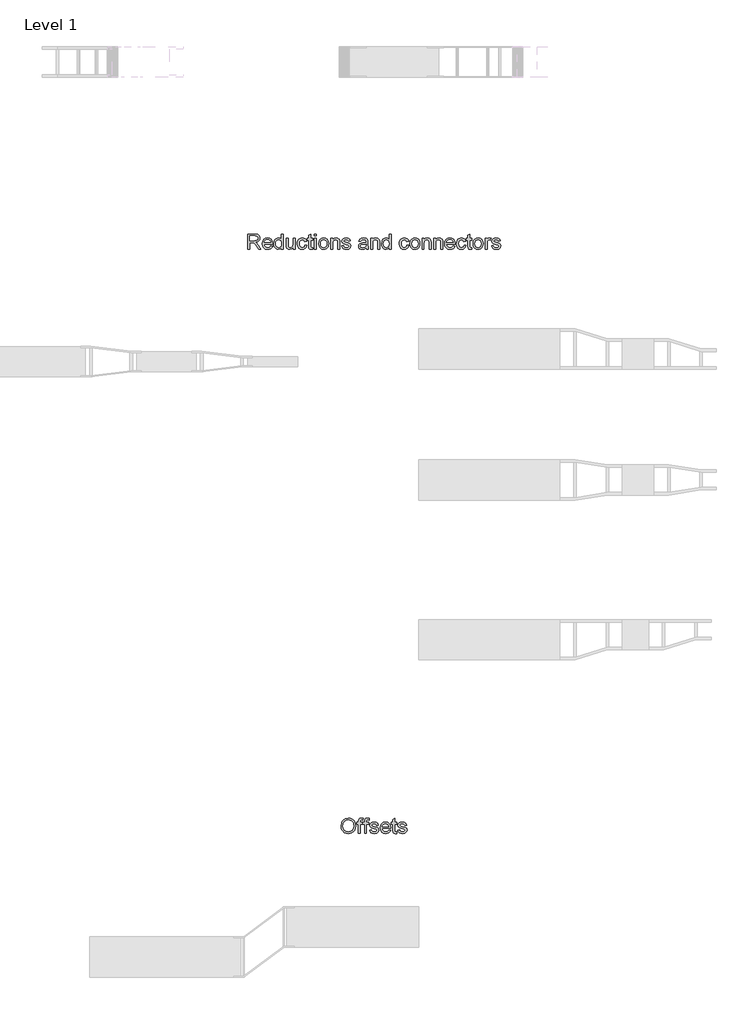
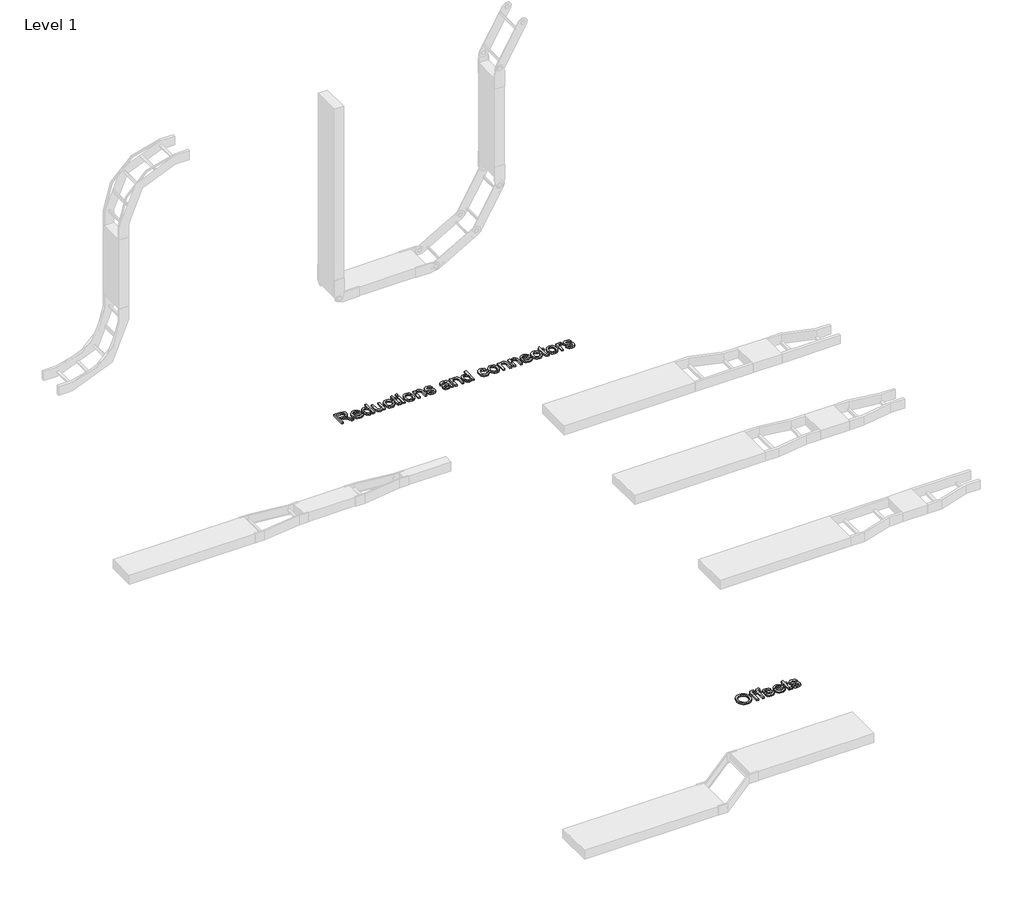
# One storey, part 74 of 106: 2 proxies.
"""IFC4 building model written with IfcOpenShell, lengths in millimetres."""

import ifcopenshell
import ifcopenshell.guid

model = None  # the IFC model being written
_history = None  # IfcOwnerHistory: only IFC2X3 demands one
_inside = {}  # id of a spatial element -> (the spatial element, [elements in it])
_under = {}  # id of a project, library or spatial element -> (it, [spatial elements below it])
_declared = {}  # id of a project -> (the project, [libraries it declares])
_typed = {}  # id of a type object -> (the type object, [elements of that type])
_made_of = {}  # id of a material, layer set ... -> (it, [elements and type objects made of it])


def new_model(schema):
    """Start an empty IFC model of exactly this schema.

    Asked for "IFC4X3", IfcOpenShell would pick the latest addendum, in which some entities
    have other attributes; the version numbers below select the first issue.
    IFC2X3 requires an IfcOwnerHistory on every rooted entity: one is made here for all.
    """
    global model, _history
    if schema == "IFC4X3":
        model = ifcopenshell.file(schema_version=(4, 3, 0, 0))
    else:
        model = ifcopenshell.file(schema=schema)
    _inside.clear()
    _under.clear()
    _declared.clear()
    _typed.clear()
    _made_of.clear()
    _history = None
    if model.schema == "IFC2X3":
        org = make("IfcOrganization", Name="unknown")
        user = make(
            "IfcPersonAndOrganization",
            ThePerson=make("IfcPerson", FamilyName="unknown"),
            TheOrganization=org,
        )
        app = make(
            "IfcApplication",
            ApplicationDeveloper=org,
            Version="unknown",
            ApplicationFullName="unknown",
            ApplicationIdentifier="unknown",
        )
        _history = make(
            "IfcOwnerHistory",
            OwningUser=user,
            OwningApplication=app,
            ChangeAction="ADDED",
            CreationDate=0,
        )
    return model


def make(cls, **values):
    """One entity of the class cls with the attributes given. An attribute that is None is left unset."""
    return model.create_entity(
        cls, **{name: value for name, value in values.items() if value is not None}
    )


def rooted(cls, **values):
    """An entity with a GlobalId (a new one), such as an element, a storey or a relation."""
    return make(cls, GlobalId=ifcopenshell.guid.new(), OwnerHistory=_history, **values)


def si_unit(unit_type, name, prefix=None):
    """IfcSIUnit, for example si_unit("LENGTHUNIT", "METRE", prefix="MILLI")."""
    return make("IfcSIUnit", UnitType=unit_type, Prefix=prefix, Name=name)


def assignment(units):
    """IfcUnitAssignment: the units of a project."""
    return None if units is None else make("IfcUnitAssignment", Units=units)


def point(xyz):
    """IfcCartesianPoint."""
    return None if xyz is None else make("IfcCartesianPoint", Coordinates=xyz)


def direction(xyz):
    """IfcDirection."""
    return None if xyz is None else make("IfcDirection", DirectionRatios=xyz)


def frame(location, z_axis=None, x_axis=None):
    """IfcAxis2Placement3D, a coordinate frame: its origin and axes. An axis left out is left unset."""
    return make(
        "IfcAxis2Placement3D",
        Location=point(location),
        Axis=direction(z_axis),
        RefDirection=direction(x_axis),
    )


def origin():
    """The frame at (0, 0, 0) with its axes left unset."""
    return frame((0.0, 0.0, 0.0))


def origin_with_axes():
    """The frame at (0, 0, 0) with the z axis (0, 0, 1) and the x axis (1, 0, 0) written out."""
    return frame((0.0, 0.0, 0.0), z_axis=(0.0, 0.0, 1.0), x_axis=(1.0, 0.0, 0.0))


def place(relative_to, where):
    """IfcLocalPlacement: puts the frame where relative to a parent placement (None: the world)."""
    return make(
        "IfcLocalPlacement", PlacementRelTo=relative_to, RelativePlacement=where
    )


def context(
    kind, dimensions, precision=None, world=None, true_north=None, identifier=None
):
    """IfcGeometricRepresentationContext, for example the 3D "Model" context."""
    return make(
        "IfcGeometricRepresentationContext",
        ContextIdentifier=identifier,
        ContextType=kind,
        CoordinateSpaceDimension=dimensions,
        Precision=precision,
        WorldCoordinateSystem=world,
        TrueNorth=true_north,
    )


def project(units=None, contexts=None):
    """IfcProject with its units and contexts."""
    return rooted(
        "IfcProject",
        Name="project",
        RepresentationContexts=contexts,
        UnitsInContext=assignment(units),
    )


def spatial(cls, under=None, at=None, **own):
    """A site, building, storey or space (cls), placed at a placement, below another one or the project."""
    s = rooted(cls, ObjectPlacement=at, **own)
    if under is not None:
        _under.setdefault(under.id(), (under, []))[1].append(s)
    return s


def polyline(points):
    """IfcPolyline through the points."""
    return make("IfcPolyline", Points=[point(p) for p in points])


def outline(outer, holes=None, kind="AREA"):
    """IfcArbitraryClosedProfileDef: a profile drawn as a closed curve; with holes, ...WithVoids."""
    if holes is None:
        return make("IfcArbitraryClosedProfileDef", ProfileType=kind, OuterCurve=outer)
    return make(
        "IfcArbitraryProfileDefWithVoids",
        ProfileType=kind,
        OuterCurve=outer,
        InnerCurves=holes,
    )


def extrude(swept, where, along, depth):
    """IfcExtrudedAreaSolid: the profile swept, set in the frame where, extruded along a direction by depth."""
    return make(
        "IfcExtrudedAreaSolid",
        SweptArea=swept,
        Position=where,
        ExtrudedDirection=direction(along),
        Depth=depth,
    )


def shape(context_of_items, identifier, shape_type, items):
    """IfcShapeRepresentation: the items that make up one representation, for example the "Body"."""
    return make(
        "IfcShapeRepresentation",
        ContextOfItems=context_of_items,
        RepresentationIdentifier=identifier,
        RepresentationType=shape_type,
        Items=items,
    )


def made_of(thing, what):
    """Note that an element or type object is made of a material, layer set ...; save() writes the relation."""
    if what is not None:
        _made_of.setdefault(what.id(), (what, []))[1].append(thing)
    return thing


def element(
    cls,
    number,
    at=None,
    inside=None,
    cuts=None,
    type_object=None,
    material=None,
    context=None,
    identifier="Body",
    shape_type=None,
    held_by="IfcProductDefinitionShape",
    body=None,
    shapes=None,
    **own,
):
    """One element of the class cls, such as IfcWall. Its Tag is "e" and its number.

    at: its placement. inside: the storey or other place that contains it. cuts: it is an
    opening in that element (IfcRelVoidsElement). A single representation is given by context,
    identifier, shape_type and body (its items); several are given by shapes. held_by: the class
    of the entity that holds the representations. save() writes the other relations.
    """
    e = rooted(cls, Tag="e%d" % number, ObjectPlacement=at, **own)
    if body is not None:
        shapes = [shape(context, identifier, shape_type, body)]
    if shapes is not None:
        e.Representation = make(held_by, Representations=shapes)
    if inside is not None:
        _inside.setdefault(inside.id(), (inside, []))[1].append(e)
    if cuts is not None:
        rooted(
            "IfcRelVoidsElement", RelatingBuildingElement=cuts, RelatedOpeningElement=e
        )
    if type_object is not None:
        _typed.setdefault(type_object.id(), (type_object, []))[1].append(e)
    return made_of(e, material)


def aggregate(whole, parts):
    """IfcRelAggregates: a whole, such as a stair, and the parts it consists of."""
    return rooted("IfcRelAggregates", RelatingObject=whole, RelatedObjects=parts)


def save(model, path):
    """Write the relations noted so far, then the file.

    IfcRelAggregates (storeys below a building ...), IfcRelContainedInSpatialStructure (elements
    in a storey), IfcRelDefinesByType, IfcRelAssociatesMaterial and IfcRelDeclares: one each for
    every whole, place, type object, material and project.
    """
    for whole, parts in _under.values():
        aggregate(whole, parts)
    for where, things in _inside.values():
        rooted(
            "IfcRelContainedInSpatialStructure",
            RelatedElements=things,
            RelatingStructure=where,
        )
    for kind, things in _typed.values():
        rooted("IfcRelDefinesByType", RelatedObjects=things, RelatingType=kind)
    for what, things in _made_of.values():
        rooted("IfcRelAssociatesMaterial", RelatedObjects=things, RelatingMaterial=what)
    for by, libraries in _declared.values():
        rooted("IfcRelDeclares", RelatingContext=by, RelatedDefinitions=libraries)
    model.write(path)


model = new_model("IFC4")

# Units and contexts
model_context = context("Model", 3, world=origin())
ifc_project = project(units=[si_unit("LENGTHUNIT", "METRE", prefix="MILLI")], contexts=[model_context])

# Site, building, storey
site = spatial("IfcSite", under=ifc_project)
building = spatial("IfcBuilding", under=site)
storey = spatial("IfcBuildingStorey", under=building, Name="Level 1", Elevation=0.0)

# Proxies
placement = place(None, origin())
element("IfcBuildingElementProxy", 1, Name="150mm Arial 2", ObjectType="150mm Arial 2", at=placement, inside=storey, context=model_context, shape_type="SweptSolid", body=[
    extrude(outline(polyline([(106668.5420892, 54347.8476348), (106668.5420892, 54498.5321), (106733.4732613, 54498.5321), (106763.6211908, 54494.467004), (106772.9010141, 54488.8384094), (106780.1023042, 54480.0828179), (106784.7238218, 54469.2257006), (106786.2643276, 54457.2925283), (106783.7121463, 54442.4484898), (106776.0556023, 54430.1428371), (106763.0647693, 54421.1205312), (106744.5097212, 54416.1265331), (106755.2150872, 54408.0699174), (106770.48219, 54388.6825362), (106795.6085303, 54347.8476348), (106773.7195516, 54347.8476348), (106754.1114412, 54379.0808162), (106739.9479844, 54399.7557843), (106729.9967765, 54409.5230513), (106721.0388499, 54413.1099007), (106710.1127546, 54413.7720883), (106687.3776473, 54413.7720883), (106687.3776473, 54347.8476348), (106668.5420892, 54347.8476348)]), holes=[polyline([(106687.3776473, 54432.6076465), (106729.536924, 54432.6076465), (106751.0396266, 54435.2747909), (106763.2533088, 54443.8096532), (106767.4287695, 54456.5935526), (106765.4376082, 54465.7814054), (106759.4641243, 54473.1850305), (106749.186421, 54478.068664), (106734.2826017, 54479.6965419), (106687.3776473, 54479.6965419), (106687.3776473, 54432.6076465)])]), origin_with_axes(), (0.0, 0.0, 1.0), 15.0),
    extrude(outline(polyline([(106894.3480578, 54380.8098615), (106912.815734, 54378.4554168), (106906.1616684, 54364.5402803), (106895.5436743, 54354.1384169), (106881.200875, 54347.6544967), (106863.3723938, 54345.49319), (106841.2718829, 54349.2225937), (106824.2665377, 54360.4108049), (106813.4232159, 54378.3312566), (106809.8087753, 54402.2573819), (106813.4600041, 54426.988249), (106824.4136905, 54445.4835163), (106841.1891095, 54457.0166168), (106862.305536, 54460.8609837), (106882.7643735, 54457.0258139), (106899.1121296, 54445.5203045), (106909.8312913, 54427.0618254), (106913.4043452, 54402.3677465), (106913.2939806, 54397.2909749), (106828.6443335, 54397.2909749), (106831.9046876, 54383.1918975), (106839.4784582, 54372.8268223), (106850.409152, 54366.4532667), (106863.7402758, 54364.3287482), (106882.207952, 54368.2650855), (106894.3480578, 54380.8098615)]), holes=[polyline([(106828.6443335, 54416.1265331), (106894.568787, 54416.1265331), (106892.0212042, 54426.0777411), (106887.0272061, 54433.1962577), (106876.0459285, 54439.8181336), (106862.2319596, 54442.0254255), (106849.5354323, 54440.2641905), (106839.0369998, 54434.9804853), (106831.7391407, 54426.7445272), (106828.6443335, 54416.1265331)])]), origin_with_axes(), (0.0, 0.0, 1.0), 15.0),
    extrude(outline(polyline([(107000.5188016, 54347.8476348), (107000.5188016, 54365.6163351), (106988.056799, 54350.5239763), (106970.8307246, 54345.49319), (106958.6538306, 54347.3142059), (106947.5070061, 54352.7772535), (106938.0708329, 54361.5006553), (106931.0258927, 54373.1027337), (106926.6388999, 54387.1144392), (106925.176569, 54403.0667223), (106930.5660402, 54433.0491049), (106937.2982807, 54444.9408904), (106946.7160598, 54453.6872848), (106958.1066061, 54459.067559), (106970.7571482, 54460.8609837), (106988.1211784, 54455.7290299), (107000.5188016, 54442.3933075), (107000.5188016, 54498.5321), (107019.3543598, 54498.5321), (107019.3543598, 54347.8476348), (107000.5188016, 54347.8476348)]), holes=[polyline([(106944.0121271, 54403.1402987), (106946.1366457, 54386.1027638), (106952.5102012, 54373.9856505), (106961.7716305, 54366.7429738), (106972.55977, 54364.3287482), (106983.343311, 54366.6326092), (106992.3702154, 54373.5441921), (106998.4816551, 54385.1922558), (107000.5188016, 54401.7055589), (106998.4448669, 54419.7593678), (106992.2230626, 54432.2765527), (106982.9662319, 54439.5882073), (106971.7872178, 54442.0254255), (106960.8887137, 54439.6847764), (106951.9583782, 54432.6628288), (106945.9986899, 54420.6008979), (106944.0121271, 54403.1402987)])]), origin_with_axes(), (0.0, 0.0, 1.0), 15.0),
    extrude(outline(polyline([(107118.2410401, 54347.8476348), (107118.2410401, 54366.8671339), (107103.4889721, 54350.836676), (107084.2487437, 54345.49319), (107066.5352256, 54349.2455864), (107054.3215434, 54358.6633654), (107048.711343, 54372.5325167), (107047.607697, 54390.0436996), (107047.607697, 54458.5065389), (107066.4432551, 54458.5065389), (107066.4432551, 54398.9096557), (107067.5836893, 54379.7062156), (107075.0332997, 54368.4306324), (107089.0679978, 54364.3287482), (107104.7949531, 54368.5226029), (107115.1876195, 54379.9453389), (107118.2410401, 54400.9330067), (107118.2410401, 54458.5065389), (107137.0765982, 54458.5065389), (107137.0765982, 54347.8476348), (107118.2410401, 54347.8476348)])), origin_with_axes(), (0.0, 0.0, 1.0), 15.0),
    extrude(outline(polyline([(107233.6088338, 54387.8731959), (107252.4443919, 54385.5187511), (107247.1928764, 54368.7663247), (107237.3244419, 54356.1065856), (107223.7679904, 54348.1465389), (107207.4524239, 54345.49319), (107187.4166507, 54349.1950026), (107171.7494763, 54360.3004403), (107161.6373199, 54378.3220596), (107158.2666011, 54402.7724167), (107159.7059394, 54419.5340401), (107164.0239544, 54434.0607803), (107171.2896238, 54445.7916175), (107181.5719255, 54454.1655314), (107193.8729797, 54459.1871206), (107207.1949065, 54460.8609837), (107223.1104013, 54458.5617212), (107235.8345198, 54451.6639338), (107244.9625918, 54440.5355035), (107250.0899471, 54425.5443122), (107231.254389, 54423.1898674), (107222.5171916, 54437.2981419), (107207.3420593, 54442.0254255), (107195.1697638, 54439.6985719), (107185.5082629, 54432.7180111), (107179.2036852, 54420.7066639), (107177.1021593, 54403.2874515), (107179.1576999, 54385.6337142), (107185.3243219, 54373.5809803), (107194.8110788, 54366.6418062), (107206.8270245, 54364.3287482), (107216.5804959, 54365.772685), (107224.5773308, 54370.1044955), (107230.3944648, 54377.4345442), (107233.6088338, 54387.8731959)])), origin_with_axes(), (0.0, 0.0, 1.0), 15.0),
    extrude(outline(polyline([(107308.9510664, 54363.556196), (107311.3055111, 54347.2958118), (107297.2156307, 54345.49319), (107281.4334931, 54348.620187), (107273.5608184, 54356.8239555), (107271.2799501, 54378.1978994), (107271.2799501, 54439.6709808), (107257.1532814, 54439.6709808), (107257.1532814, 54458.5065389), (107271.2799501, 54458.5065389), (107271.2799501, 54485.3987128), (107290.1155082, 54496.4719608), (107290.1155082, 54458.5065389), (107308.9510664, 54458.5065389), (107308.9510664, 54439.6709808), (107290.1155082, 54439.6709808), (107290.1155082, 54378.7497224), (107291.1087896, 54369.0376377), (107294.3277571, 54365.597941), (107300.7472979, 54364.3287482), (107308.9510664, 54363.556196)])), origin_with_axes(), (0.0, 0.0, 1.0), 15.0),
    extrude(outline(polyline([(107327.7866245, 54479.6965419), (107327.7866245, 54498.5321), (107346.6221827, 54498.5321), (107346.6221827, 54479.6965419), (107327.7866245, 54479.6965419)])), origin_with_axes(), (0.0, 0.0, 1.0), 15.0),
    extrude(outline(polyline([(107327.7866245, 54347.8476348), (107327.7866245, 54458.5065389), (107346.6221827, 54458.5065389), (107346.6221827, 54347.8476348), (107327.7866245, 54347.8476348)])), origin_with_axes(), (0.0, 0.0, 1.0), 15.0),
    extrude(outline(polyline([(107370.1666304, 54403.1770869), (107374.2409235, 54429.8577286), (107386.4638027, 54448.6105133), (107401.5653587, 54457.7983661), (107419.6467587, 54460.8609837), (107439.4342115, 54457.13158), (107455.2393417, 54445.9433688), (107465.5998184, 54428.179267), (107469.0533107, 54404.7221912), (107467.5266004, 54385.693495), (107462.9464695, 54371.2081415), (107455.4462754, 54360.3602211), (107445.1593751, 54352.2438246), (107432.9410943, 54347.1808487), (107419.6467587, 54345.49319), (107399.6201826, 54349.2087982), (107383.8334465, 54360.3556226), (107373.5833344, 54378.492205), (107370.1666304, 54403.1770869)]), holes=[polyline([(107389.0021885, 54403.2138751), (107391.1818893, 54386.1671431), (107397.7209918, 54374.0224387), (107407.5618352, 54366.7521708), (107419.6467587, 54364.3287482), (107431.6765, 54366.7659664), (107441.4989492, 54374.077621), (107448.0380517, 54386.3832738), (107450.2177525, 54403.8024862), (107448.0242561, 54420.3525775), (107441.4437669, 54432.331735), (107431.6075221, 54439.6020029), (107419.6467587, 54442.0254255), (107407.5618352, 54439.6112), (107397.7209918, 54432.3685232), (107391.1818893, 54420.25141), (107389.0021885, 54403.2138751)])]), origin_with_axes(), (0.0, 0.0, 1.0), 15.0),
    extrude(outline(polyline([(107490.2433136, 54347.8476348), (107490.2433136, 54458.5065389), (107509.0788717, 54458.5065389), (107509.0788717, 54443.0554951), (107523.4814519, 54456.4096116), (107543.1447445, 54460.8609837), (107560.931839, 54457.2741342), (107573.0719448, 54447.8563552), (107578.7189334, 54434.0055981), (107579.7122148, 54415.7954393), (107579.7122148, 54347.8476348), (107560.8766567, 54347.8476348), (107560.8766567, 54413.2570535), (107558.7061529, 54429.9221079), (107551.0358133, 54438.7328817), (107538.1047612, 54442.0254255), (107527.0728998, 54440.1768185), (107517.6689163, 54434.6309974), (107511.2263829, 54423.9164343), (107509.0788717, 54406.5616012), (107509.0788717, 54347.8476348), (107490.2433136, 54347.8476348)])), origin_with_axes(), (0.0, 0.0, 1.0), 15.0),
    extrude(outline(polyline([(107598.547773, 54380.8098615), (107617.3833311, 54383.1643063), (107620.3539782, 54375.1076906), (107626.1021344, 54369.1847905), (107646.0781267, 54364.3287482), (107665.2815669, 54368.7801203), (107671.5355608, 54379.227969), (107669.9628653, 54384.028829), (107665.2447787, 54387.6892549), (107645.8573975, 54393.060332), (107617.4936957, 54402.275776), (107605.1144666, 54413.0363243), (107600.9022177, 54428.2298507), (107604.2867321, 54442.2645488), (107613.5205702, 54452.988309), (107625.4951291, 54458.5617212), (107641.700331, 54460.8609837), (107664.6193793, 54457.1637696), (107679.1875063, 54447.1573794), (107685.6622294, 54430.2532017), (107666.8266713, 54427.8987569), (107659.7449429, 54438.2914233), (107643.171859, 54442.0254255), (107625.1456412, 54438.4569702), (107619.7377759, 54430.1428371), (107621.9818561, 54424.6613954), (107629.0084022, 54420.5043288), (107645.2319982, 54416.4944151), (107672.8783301, 54407.628459), (107685.7174117, 54397.5852805), (107690.371119, 54381.2145317), (107684.9080713, 54363.188314), (107669.1443278, 54350.1101091), (107645.8206093, 54345.49319), (107626.8287013, 54347.7188761), (107612.9687472, 54354.3959343), (107603.716515, 54365.4507882), (107598.547773, 54380.8098615)])), origin_with_axes(), (0.0, 0.0, 1.0), 15.0),
    extrude(outline(polyline([(107841.0555842, 54361.9743034), (107822.7902431, 54349.2087982), (107802.6119157, 54345.49319), (107786.8711648, 54347.7280731), (107775.2598894, 54354.4327225), (107768.099986, 54364.6138567), (107765.7133516, 54377.2781944), (107769.3185951, 54392.1774152), (107778.7915565, 54402.9931459), (107791.980126, 54409.1735634), (107808.2772984, 54412.0062547), (107840.9452196, 54418.4809779), (107841.0555842, 54422.6748326), (107839.7588002, 54431.0809362), (107835.8684481, 54436.580772), (107827.1680389, 54440.6642622), (107815.0463271, 54442.0254255), (107795.9900398, 54438.4017879), (107786.9033545, 54425.5443122), (107768.0677963, 54427.8987569), (107776.2163825, 54446.2928567), (107792.6239195, 54457.0717991), (107817.4743483, 54460.8609837), (107840.3014261, 54457.5132575), (107853.19569, 54449.107154), (107858.9714374, 54436.3232546), (107859.8911423, 54419.8421412), (107859.8911423, 54396.4080581), (107860.8476355, 54363.6849547), (107864.6000319, 54347.8476348), (107845.7644737, 54347.8476348), (107841.0555842, 54361.9743034)]), holes=[polyline([(107841.0555842, 54399.6454197), (107810.6685314, 54393.8696724), (107794.4633295, 54390.8162518), (107787.1240837, 54385.8498449), (107784.5489097, 54378.6025696), (107790.1591102, 54368.4122383), (107806.6218294, 54364.3287482), (107825.6781168, 54368.8353026), (107837.9653754, 54379.7430038), (107840.9452196, 54394.3111308), (107841.0555842, 54399.6454197)])]), origin_with_axes(), (0.0, 0.0, 1.0), 15.0),
    extrude(outline(polyline([(107885.7900348, 54347.8476348), (107885.7900348, 54458.5065389), (107904.625593, 54458.5065389), (107904.625593, 54443.0554951), (107919.0281731, 54456.4096116), (107938.6914657, 54460.8609837), (107956.4785602, 54457.2741342), (107968.618666, 54447.8563552), (107974.2656546, 54434.0055981), (107975.258936, 54415.7954393), (107975.258936, 54347.8476348), (107956.4233779, 54347.8476348), (107956.4233779, 54413.2570535), (107954.2528741, 54429.9221079), (107946.5825345, 54438.7328817), (107933.6514824, 54442.0254255), (107922.619621, 54440.1768185), (107913.2156375, 54434.6309974), (107906.7731041, 54423.9164343), (107904.625593, 54406.5616012), (107904.625593, 54347.8476348), (107885.7900348, 54347.8476348)])), origin_with_axes(), (0.0, 0.0, 1.0), 15.0),
    extrude(outline(polyline([(108069.4367268, 54347.8476348), (108069.4367268, 54365.6163351), (108056.9747242, 54350.5239763), (108039.7486498, 54345.49319), (108027.5717557, 54347.3142059), (108016.4249313, 54352.7772535), (108006.9887581, 54361.5006553), (107999.9438179, 54373.1027337), (107995.5568251, 54387.1144392), (107994.0944942, 54403.0667223), (107999.4839654, 54433.0491049), (108006.2162059, 54444.9408904), (108015.633985, 54453.6872848), (108027.0245313, 54459.067559), (108039.6750734, 54460.8609837), (108057.0391036, 54455.7290299), (108069.4367268, 54442.3933075), (108069.4367268, 54498.5321), (108088.2722849, 54498.5321), (108088.2722849, 54347.8476348), (108069.4367268, 54347.8476348)]), holes=[polyline([(108012.9300523, 54403.1402987), (108015.0545709, 54386.1027638), (108021.4281264, 54373.9856505), (108030.6895557, 54366.7429738), (108041.4776952, 54364.3287482), (108052.2612361, 54366.6326092), (108061.2881406, 54373.5441921), (108067.3995802, 54385.1922558), (108069.4367268, 54401.7055589), (108067.362792, 54419.7593678), (108061.1409878, 54432.2765527), (108051.8841571, 54439.5882073), (108040.705143, 54442.0254255), (108029.8066389, 54439.6847764), (108020.8763034, 54432.6628288), (108014.9166151, 54420.6008979), (108012.9300523, 54403.1402987)])]), origin_with_axes(), (0.0, 0.0, 1.0), 15.0),
    extrude(outline(polyline([(108246.0200845, 54387.8731959), (108264.8556426, 54385.5187511), (108259.6041272, 54368.7663247), (108249.7356926, 54356.1065856), (108236.1792411, 54348.1465389), (108219.8636746, 54345.49319), (108199.8279015, 54349.1950026), (108184.160727, 54360.3004403), (108174.0485706, 54378.3220596), (108170.6778519, 54402.7724167), (108172.1171902, 54419.5340401), (108176.4352051, 54434.0607803), (108183.7008745, 54445.7916175), (108193.9831763, 54454.1655314), (108206.2842305, 54459.1871206), (108219.6061572, 54460.8609837), (108235.521652, 54458.5617212), (108248.2457706, 54451.6639338), (108257.3738426, 54440.5355035), (108262.5011979, 54425.5443122), (108243.6656397, 54423.1898674), (108234.9284423, 54437.2981419), (108219.75331, 54442.0254255), (108207.5810145, 54439.6985719), (108197.9195136, 54432.7180111), (108191.6149359, 54420.7066639), (108189.51341, 54403.2874515), (108191.5689507, 54385.6337142), (108197.7355726, 54373.5809803), (108207.2223296, 54366.6418062), (108219.2382752, 54364.3287482), (108228.9917466, 54365.772685), (108236.9885815, 54370.1044955), (108242.8057155, 54377.4345442), (108246.0200845, 54387.8731959)])), origin_with_axes(), (0.0, 0.0, 1.0), 15.0),
    extrude(outline(polyline([(108276.6278665, 54403.1770869), (108280.7021596, 54429.8577286), (108292.9250389, 54448.6105133), (108308.0265948, 54457.7983661), (108326.1079948, 54460.8609837), (108345.8954476, 54457.13158), (108361.7005779, 54445.9433688), (108372.0610546, 54428.179267), (108375.5145468, 54404.7221912), (108373.9878365, 54385.693495), (108369.4077057, 54371.2081415), (108361.9075115, 54360.3602211), (108351.6206112, 54352.2438246), (108339.4023304, 54347.1808487), (108326.1079948, 54345.49319), (108306.0814187, 54349.2087982), (108290.2946826, 54360.3556226), (108280.0445705, 54378.492205), (108276.6278665, 54403.1770869)]), holes=[polyline([(108295.4634246, 54403.2138751), (108297.6431255, 54386.1671431), (108304.1822279, 54374.0224387), (108314.0230713, 54366.7521708), (108326.1079948, 54364.3287482), (108338.1377361, 54366.7659664), (108347.9601853, 54374.077621), (108354.4992878, 54386.3832738), (108356.6789886, 54403.8024862), (108354.4854922, 54420.3525775), (108347.905003, 54432.331735), (108338.0687582, 54439.6020029), (108326.1079948, 54442.0254255), (108314.0230713, 54439.6112), (108304.1822279, 54432.3685232), (108297.6431255, 54420.25141), (108295.4634246, 54403.2138751)])]), origin_with_axes(), (0.0, 0.0, 1.0), 15.0),
    extrude(outline(polyline([(108396.7045497, 54347.8476348), (108396.7045497, 54458.5065389), (108415.5401079, 54458.5065389), (108415.5401079, 54443.0554951), (108429.942688, 54456.4096116), (108449.6059806, 54460.8609837), (108467.3930751, 54457.2741342), (108479.5331809, 54447.8563552), (108485.1801695, 54434.0055981), (108486.1734509, 54415.7954393), (108486.1734509, 54347.8476348), (108467.3378928, 54347.8476348), (108467.3378928, 54413.2570535), (108465.167389, 54429.9221079), (108457.4970494, 54438.7328817), (108444.5659973, 54442.0254255), (108433.5341359, 54440.1768185), (108424.1301524, 54434.6309974), (108417.687619, 54423.9164343), (108415.5401079, 54406.5616012), (108415.5401079, 54347.8476348), (108396.7045497, 54347.8476348)])), origin_with_axes(), (0.0, 0.0, 1.0), 15.0),
    extrude(outline(polyline([(108512.0723434, 54347.8476348), (108512.0723434, 54458.5065389), (108530.9079015, 54458.5065389), (108530.9079015, 54443.0554951), (108545.3104817, 54456.4096116), (108564.9737743, 54460.8609837), (108582.7608688, 54457.2741342), (108594.9009746, 54447.8563552), (108600.5479632, 54434.0055981), (108601.5412446, 54415.7954393), (108601.5412446, 54347.8476348), (108582.7056865, 54347.8476348), (108582.7056865, 54413.2570535), (108580.5351827, 54429.9221079), (108572.8648431, 54438.7328817), (108559.933791, 54442.0254255), (108548.9019296, 54440.1768185), (108539.4979461, 54434.6309974), (108533.0554127, 54423.9164343), (108530.9079015, 54406.5616012), (108530.9079015, 54347.8476348), (108512.0723434, 54347.8476348)])), origin_with_axes(), (0.0, 0.0, 1.0), 15.0),
    extrude(outline(polyline([(108704.9160853, 54380.8098615), (108723.3837614, 54378.4554168), (108716.7296958, 54364.5402803), (108706.1117017, 54354.1384169), (108691.7689025, 54347.6544967), (108673.9404213, 54345.49319), (108651.8399104, 54349.2225937), (108634.8345652, 54360.4108049), (108623.9912434, 54378.3312566), (108620.3768028, 54402.2573819), (108624.0280316, 54426.988249), (108634.981718, 54445.4835163), (108651.757137, 54457.0166168), (108672.8735635, 54460.8609837), (108693.3324009, 54457.0258139), (108709.6801571, 54445.5203045), (108720.3993187, 54427.0618254), (108723.9723726, 54402.3677465), (108723.862008, 54397.2909749), (108639.2123609, 54397.2909749), (108642.4727151, 54383.1918975), (108650.0464857, 54372.8268223), (108660.9771795, 54366.4532667), (108674.3083033, 54364.3287482), (108692.7759794, 54368.2650855), (108704.9160853, 54380.8098615)]), holes=[polyline([(108639.2123609, 54416.1265331), (108705.1368145, 54416.1265331), (108702.5892316, 54426.0777411), (108697.5952336, 54433.1962577), (108686.613956, 54439.8181336), (108672.7999871, 54442.0254255), (108660.1034597, 54440.2641905), (108649.6050273, 54434.9804853), (108642.3071682, 54426.7445272), (108639.2123609, 54416.1265331)])]), origin_with_axes(), (0.0, 0.0, 1.0), 15.0),
    extrude(outline(polyline([(108813.4412738, 54387.8731959), (108832.276832, 54385.5187511), (108827.0253165, 54368.7663247), (108817.156882, 54356.1065856), (108803.6004305, 54348.1465389), (108787.284864, 54345.49319), (108767.2490908, 54349.1950026), (108751.5819164, 54360.3004403), (108741.46976, 54378.3220596), (108738.0990412, 54402.7724167), (108739.5383795, 54419.5340401), (108743.8563945, 54434.0607803), (108751.1220639, 54445.7916175), (108761.4043656, 54454.1655314), (108773.7054198, 54459.1871206), (108787.0273466, 54460.8609837), (108802.9428414, 54458.5617212), (108815.6669599, 54451.6639338), (108824.7950319, 54440.5355035), (108829.9223872, 54425.5443122), (108811.0868291, 54423.1898674), (108802.3496317, 54437.2981419), (108787.1744994, 54442.0254255), (108775.0022039, 54439.6985719), (108765.340703, 54432.7180111), (108759.0361253, 54420.7066639), (108756.9345994, 54403.2874515), (108758.99014, 54385.6337142), (108765.156762, 54373.5809803), (108774.6435189, 54366.6418062), (108786.6594646, 54364.3287482), (108796.412936, 54365.772685), (108804.4097709, 54370.1044955), (108810.2269049, 54377.4345442), (108813.4412738, 54387.8731959)])), origin_with_axes(), (0.0, 0.0, 1.0), 15.0),
    extrude(outline(polyline([(108888.7835065, 54363.556196), (108891.1379512, 54347.2958118), (108877.0480708, 54345.49319), (108861.2659332, 54348.620187), (108853.3932585, 54356.8239555), (108851.1123901, 54378.1978994), (108851.1123901, 54439.6709808), (108836.9857215, 54439.6709808), (108836.9857215, 54458.5065389), (108851.1123901, 54458.5065389), (108851.1123901, 54485.3987128), (108869.9479483, 54496.4719608), (108869.9479483, 54458.5065389), (108888.7835065, 54458.5065389), (108888.7835065, 54439.6709808), (108869.9479483, 54439.6709808), (108869.9479483, 54378.7497224), (108870.9412297, 54369.0376377), (108874.1601971, 54365.597941), (108880.579738, 54364.3287482), (108888.7835065, 54363.556196)])), origin_with_axes(), (0.0, 0.0, 1.0), 15.0),
    extrude(outline(polyline([(108902.9101751, 54403.1770869), (108906.9844682, 54429.8577286), (108919.2073475, 54448.6105133), (108934.3089034, 54457.7983661), (108952.3903034, 54460.8609837), (108972.1777562, 54457.13158), (108987.9828865, 54445.9433688), (108998.3433631, 54428.179267), (109001.7968554, 54404.7221912), (109000.2701451, 54385.693495), (108995.6900143, 54371.2081415), (108988.1898201, 54360.3602211), (108977.9029198, 54352.2438246), (108965.684639, 54347.1808487), (108952.3903034, 54345.49319), (108932.3637273, 54349.2087982), (108916.5769912, 54360.3556226), (108906.3268791, 54378.492205), (108902.9101751, 54403.1770869)]), holes=[polyline([(108921.7457332, 54403.2138751), (108923.925434, 54386.1671431), (108930.4645365, 54374.0224387), (108940.3053799, 54366.7521708), (108952.3903034, 54364.3287482), (108964.4200447, 54366.7659664), (108974.2424939, 54374.077621), (108980.7815964, 54386.3832738), (108982.9612972, 54403.8024862), (108980.7678008, 54420.3525775), (108974.1873116, 54432.331735), (108964.3510668, 54439.6020029), (108952.3903034, 54442.0254255), (108940.3053799, 54439.6112), (108930.4645365, 54432.3685232), (108923.925434, 54420.25141), (108921.7457332, 54403.2138751)])]), origin_with_axes(), (0.0, 0.0, 1.0), 15.0),
    extrude(outline(polyline([(109022.9868583, 54347.8476348), (109022.9868583, 54458.5065389), (109039.4679717, 54458.5065389), (109039.4679717, 54442.1357901), (109051.1666191, 54457.2189519), (109062.938843, 54460.8609837), (109081.8479775, 54455.0484482), (109075.5571954, 54438.1626646), (109062.3134436, 54442.0254255), (109051.6632598, 54438.3098174), (109044.875837, 54428.0091215), (109041.8224164, 54406.0097782), (109041.8224164, 54347.8476348), (109022.9868583, 54347.8476348)])), origin_with_axes(), (0.0, 0.0, 1.0), 15.0),
    extrude(outline(polyline([(109086.5568671, 54380.8098615), (109105.3924252, 54383.1643063), (109108.3630723, 54375.1076906), (109114.1112285, 54369.1847905), (109134.0872208, 54364.3287482), (109153.290661, 54368.7801203), (109159.5446549, 54379.227969), (109157.9719594, 54384.028829), (109153.2538728, 54387.6892549), (109133.8664916, 54393.060332), (109105.5027898, 54402.275776), (109093.1235607, 54413.0363243), (109088.9113118, 54428.2298507), (109092.2958262, 54442.2645488), (109101.5296643, 54452.988309), (109113.5042232, 54458.5617212), (109129.7094251, 54460.8609837), (109152.6284734, 54457.1637696), (109167.1966004, 54447.1573794), (109173.6713235, 54430.2532017), (109154.8357654, 54427.8987569), (109147.754037, 54438.2914233), (109131.1809531, 54442.0254255), (109113.1547353, 54438.4569702), (109107.74687, 54430.1428371), (109109.9909502, 54424.6613954), (109117.0174963, 54420.5043288), (109133.2410922, 54416.4944151), (109160.8874242, 54407.628459), (109173.7265058, 54397.5852805), (109178.3802131, 54381.2145317), (109172.9171654, 54363.188314), (109157.1534219, 54350.1101091), (109133.8297034, 54345.49319), (109114.8377954, 54347.7188761), (109100.9778413, 54354.3959343), (109091.7256091, 54365.4507882), (109086.5568671, 54380.8098615)])), origin_with_axes(), (0.0, 0.0, 1.0), 15.0),
])
element("IfcBuildingElementProxy", 2, Name="150mm Arial 2", ObjectType="150mm Arial 2", at=placement, inside=storey, context=model_context, shape_type="SweptSolid", body=[
    extrude(outline(polyline([(107592.661661, 48621.2033046), (107597.6832503, 48654.5242163), (107603.9602368, 48668.1427479), (107612.748018, 48679.7333301), (107635.7498397, 48695.5982411), (107664.5825911, 48700.8865448), (107684.3470513, 48698.4033413), (107702.0697664, 48690.9537309), (107716.7850462, 48679.0619454), (107727.5272005, 48663.2522167), (107734.0938941, 48644.2878998), (107736.282792, 48622.93235), (107733.978931, 48601.2916916), (107727.067348, 48582.0606603), (107715.9297206, 48566.2233404), (107700.9477263, 48554.7638163), (107683.3767625, 48547.8108466), (107664.4722265, 48545.49319), (107644.4042637, 48548.0545684), (107626.580381, 48555.7387036), (107611.9018894, 48567.8512183), (107601.2700997, 48583.6977352), (107594.8137707, 48601.9308866), (107592.661661, 48621.2033046)]), holes=[polyline([(107611.4972192, 48621.0193636), (107615.2634111, 48597.4473248), (107626.5619869, 48579.4854864), (107643.5443395, 48568.1179327), (107664.3618619, 48564.3287482), (107685.482887, 48568.1547209), (107702.4928307, 48579.6326392), (107713.708633, 48598.1463006), (107717.4472338, 48623.0795028), (107715.8469471, 48639.7537542), (107711.0460871, 48654.1655314), (107703.1688139, 48665.9515508), (107692.3392876, 48674.748529), (107679.2748783, 48680.2253722), (107664.6929557, 48682.0509866), (107644.4318548, 48678.533115), (107627.2057804, 48667.9795003), (107615.4243595, 48649.203723), (107611.4972192, 48621.0193636)])]), origin_with_axes(), (0.0, 0.0, 1.0), 15.0),
    extrude(outline(polyline([(107825.7516932, 48547.8476348), (107825.7516932, 48639.6709808), (107809.2705798, 48639.6709808), (107809.2705798, 48658.5065389), (107825.7516932, 48658.5065389), (107825.7516932, 48669.6533634), (107827.738256, 48685.3619246), (107837.3767642, 48696.5823254), (107856.3594752, 48700.8865448), (107873.5395644, 48698.8264056), (107870.7804494, 48681.1680698), (107859.9279305, 48682.0509866), (107848.0637362, 48678.9239897), (107844.5872513, 48667.2621304), (107844.5872513, 48658.5065389), (107865.7772543, 48658.5065389), (107865.7772543, 48639.6709808), (107844.5872513, 48639.6709808), (107844.5872513, 48547.8476348), (107825.7516932, 48547.8476348)])), origin_with_axes(), (0.0, 0.0, 1.0), 15.0),
    extrude(outline(polyline([(107764.5361292, 48547.8476348), (107764.5361292, 48639.6709808), (107748.0550158, 48639.6709808), (107748.0550158, 48658.5065389), (107764.5361292, 48658.5065389), (107764.5361292, 48669.6533634), (107766.522692, 48685.3619246), (107776.1612002, 48696.5823254), (107795.1439112, 48700.8865448), (107812.3240004, 48698.8264056), (107809.5648854, 48681.1680698), (107798.7123665, 48682.0509866), (107786.8481722, 48678.9239897), (107783.3716873, 48667.2621304), (107783.3716873, 48658.5065389), (107804.5616903, 48658.5065389), (107804.5616903, 48639.6709808), (107783.3716873, 48639.6709808), (107783.3716873, 48547.8476348), (107764.5361292, 48547.8476348)])), origin_with_axes(), (0.0, 0.0, 1.0), 15.0),
    extrude(outline(polyline([(107875.1950333, 48580.8098615), (107894.0305915, 48583.1643063), (107897.0012386, 48575.1076906), (107902.7493948, 48569.1847905), (107922.7253871, 48564.3287482), (107941.9288273, 48568.7801203), (107948.1828212, 48579.227969), (107946.6101257, 48584.028829), (107941.8920391, 48587.6892549), (107922.5046579, 48593.060332), (107894.1409561, 48602.275776), (107881.761727, 48613.0363243), (107877.5494781, 48628.2298507), (107880.9339925, 48642.2645488), (107890.1678305, 48652.988309), (107902.1423895, 48658.5617212), (107918.3475914, 48660.8609837), (107941.2666397, 48657.1637696), (107955.8347667, 48647.1573794), (107962.3094898, 48630.2532017), (107943.4739316, 48627.8987569), (107936.3922032, 48638.2914233), (107919.8191194, 48642.0254255), (107901.7929016, 48638.4569702), (107896.3850363, 48630.1428371), (107898.6291164, 48624.6613954), (107905.6556625, 48620.5043288), (107921.8792585, 48616.4944151), (107949.5255905, 48607.628459), (107962.3646721, 48597.5852805), (107967.0183793, 48581.2145317), (107961.5553317, 48563.188314), (107945.7915882, 48550.1101091), (107922.4678697, 48545.49319), (107903.4759617, 48547.7188761), (107889.6160076, 48554.3959343), (107880.3637754, 48565.4507882), (107875.1950333, 48580.8098615)])), origin_with_axes(), (0.0, 0.0, 1.0), 15.0),
    extrude(outline(polyline([(108065.6843304, 48580.8098615), (108084.1520066, 48578.4554168), (108077.497941, 48564.5402803), (108066.8799469, 48554.1384169), (108052.5371476, 48547.6544967), (108034.7086664, 48545.49319), (108012.6081556, 48549.2225937), (107995.6028104, 48560.4108049), (107984.7594886, 48578.3312566), (107981.145048, 48602.2573819), (107984.7962768, 48626.988249), (107995.7499632, 48645.4835163), (108012.5253821, 48657.0166168), (108033.6418087, 48660.8609837), (108054.1006461, 48657.0258139), (108070.4484023, 48645.5203045), (108081.1675639, 48627.0618254), (108084.7406178, 48602.3677465), (108084.6302532, 48597.2909749), (107999.9806061, 48597.2909749), (108003.2409603, 48583.1918975), (108010.8147309, 48572.8268223), (108021.7454246, 48566.4532667), (108035.0765484, 48564.3287482), (108053.5442246, 48568.2650855), (108065.6843304, 48580.8098615)]), holes=[polyline([(107999.9806061, 48616.1265331), (108065.9050596, 48616.1265331), (108063.3574768, 48626.0777411), (108058.3634787, 48633.1962577), (108047.3822012, 48639.8181336), (108033.5682323, 48642.0254255), (108020.8717049, 48640.2641905), (108010.3732725, 48634.9804853), (108003.0754134, 48626.7445272), (107999.9806061, 48616.1265331)])]), origin_with_axes(), (0.0, 0.0, 1.0), 15.0),
    extrude(outline(polyline([(108143.601737, 48563.556196), (108145.9561818, 48547.2958118), (108131.8663014, 48545.49319), (108116.0841638, 48548.620187), (108108.2114891, 48556.8239555), (108105.9306207, 48578.1978994), (108105.9306207, 48639.6709808), (108091.8039521, 48639.6709808), (108091.8039521, 48658.5065389), (108105.9306207, 48658.5065389), (108105.9306207, 48685.3987128), (108124.7661789, 48696.4719608), (108124.7661789, 48658.5065389), (108143.601737, 48658.5065389), (108143.601737, 48639.6709808), (108124.7661789, 48639.6709808), (108124.7661789, 48578.7497224), (108125.7594603, 48569.0376377), (108128.9784277, 48565.597941), (108135.3979685, 48564.3287482), (108143.601737, 48563.556196)])), origin_with_axes(), (0.0, 0.0, 1.0), 15.0),
    extrude(outline(polyline([(108155.3739609, 48580.8098615), (108174.209519, 48583.1643063), (108177.1801661, 48575.1076906), (108182.9283223, 48569.1847905), (108202.9043146, 48564.3287482), (108222.1077548, 48568.7801203), (108228.3617487, 48579.227969), (108226.7890532, 48584.028829), (108222.0709666, 48587.6892549), (108202.6835854, 48593.060332), (108174.3198836, 48602.275776), (108161.9406545, 48613.0363243), (108157.7284056, 48628.2298507), (108161.11292, 48642.2645488), (108170.3467581, 48652.988309), (108182.321317, 48658.5617212), (108198.5265189, 48660.8609837), (108221.4455672, 48657.1637696), (108236.0136942, 48647.1573794), (108242.4884173, 48630.2532017), (108223.6528592, 48627.8987569), (108216.5711308, 48638.2914233), (108199.9980469, 48642.0254255), (108181.9718291, 48638.4569702), (108176.5639638, 48630.1428371), (108178.808044, 48624.6613954), (108185.8345901, 48620.5043288), (108202.0581861, 48616.4944151), (108229.704518, 48607.628459), (108242.5435996, 48597.5852805), (108247.1973069, 48581.2145317), (108241.7342592, 48563.188314), (108225.9705157, 48550.1101091), (108202.6467972, 48545.49319), (108183.6548892, 48547.7188761), (108169.7949351, 48554.3959343), (108160.5427029, 48565.4507882), (108155.3739609, 48580.8098615)])), origin_with_axes(), (0.0, 0.0, 1.0), 15.0),
])

save(model, "model.ifc")
